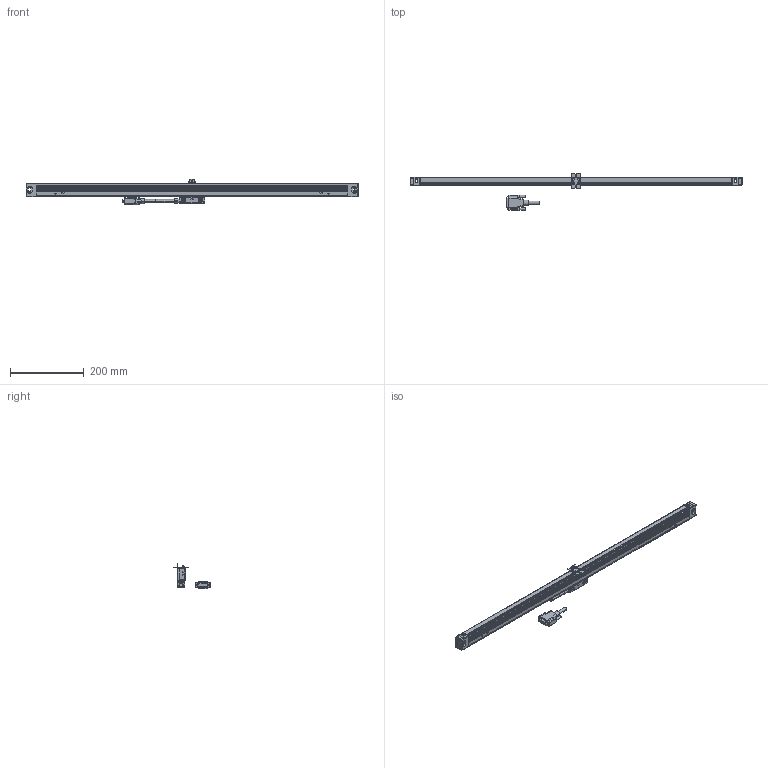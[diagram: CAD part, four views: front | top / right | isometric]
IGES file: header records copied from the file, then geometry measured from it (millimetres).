
Start section: Elysium IGES Interface
Global section: file name: 88H\\Utsu119s\kiyo_cad\data\3D\AT715\HP掲載用_201710\ﾓﾃﾞﾙ修正後_IGES\AT715-700_営業送付.igs; native system: Creo Elements/Direct Modeling 18.1B  29-Sep-2012; preprocessor: Creo Element/Direct IGES_3D V2.2; author: Unknown; organization: Unknown; date: 20181220.144322; units: millimetre
Bounding box: 898 x 99 x 68.35 mm (x, y, z)
Volume: 1949453 mm3; surface area: 416443.4 mm2
Topology: 5 solids, 10 shells, 1395 faces, 3676 edges, 2333 vertices
Faces by surface type: bspline 1395
